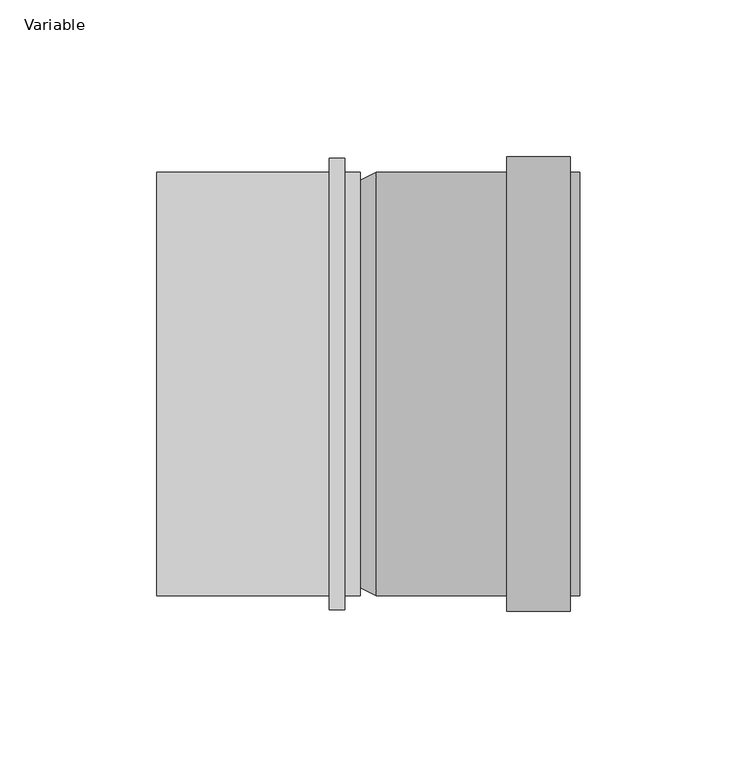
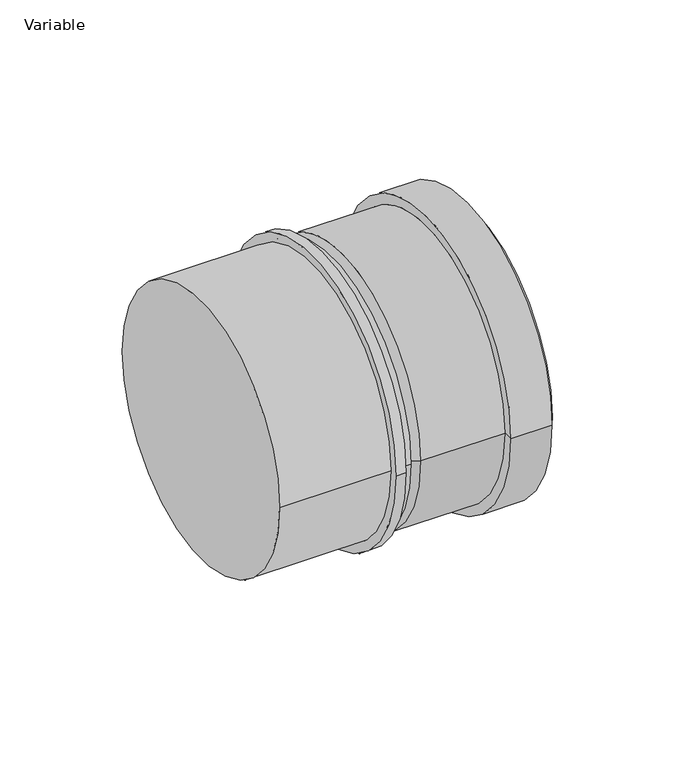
"""IFC4 building model written with IfcOpenShell, lengths in millimetres: pipe fitting geometry, AliaxisFR_Friaphon_AdaptorPVCFriaphon_FR : Variable."""

from ifc_helpers import new_model, si_unit, point, frame, origin, origin_2d, place, context, project, spatial, polyline, circle_curve, trimmed, segment, composite_curve, outline, extrude, source, transform, mapped, element, save
from ifc_brep_helpers import plane_surface, cylinder_surface, revolved_surface, advanced_brep


def variable_47d3c62a(model_context):
    return source(origin(), model_context, "Body", "SolidModel", [
        advanced_brep(
        [(135.0, -67.5, 0.0), (135.0, 67.5, 0.0), (135.0, 62.5, 0.0), (135.0, -62.5, 0.0), (111.6666667, -72.5, 0.0), (111.6666667, 72.5, 0.0), (132.0, 72.5, 0.0), (132.0, -72.5, 0.0), (111.6666667, -67.5, 0.0), (111.6666667, 67.5, 0.0), (70.0, -67.5, 0.0), (70.0, 67.5, 0.0), (60.0, 62.5, 0.0), (60.0, -62.5, 0.0), (132.0, -67.5, 0.0), (132.0, 67.5, 0.0)],
        [
            (0, 1, circle_curve(frame((135.0, 0.0, 0.0), z_axis=(1.0, 0.0, 0.0), x_axis=(0.0, 1.0, 0.0)), 67.5)),
            (1, 2),
            (2, 3, circle_curve(frame((135.0, 0.0, 0.0), z_axis=(-1.0, 0.0, 0.0), x_axis=(0.0, 1.0, 0.0)), 62.5)),
            (3, 0),
            (1, 0, circle_curve(frame((135.0, 0.0, 0.0), z_axis=(1.0, 0.0, 0.0), x_axis=(0.0, 1.0, 0.0)), 67.5)),
            (3, 2, circle_curve(frame((135.0, 0.0, 0.0), z_axis=(-1.0, 0.0, 0.0), x_axis=(0.0, 1.0, 0.0)), 62.5)),
            (4, 5, circle_curve(frame((111.6666667, 0.0, 0.0), z_axis=(1.0, 0.0, 0.0), x_axis=(0.0, 1.0, 0.0)), 72.5)),
            (5, 6),
            (6, 7, circle_curve(frame((132.0, 0.0, 0.0), z_axis=(-1.0, 0.0, 0.0), x_axis=(0.0, 1.0, 0.0)), 72.5)),
            (7, 4),
            (5, 4, circle_curve(frame((111.6666667, 0.0, 0.0), z_axis=(1.0, 0.0, 0.0), x_axis=(0.0, 1.0, 0.0)), 72.5)),
            (7, 6, circle_curve(frame((132.0, 0.0, 0.0), z_axis=(-1.0, 0.0, 0.0), x_axis=(0.0, 1.0, 0.0)), 72.5)),
            (8, 9, circle_curve(frame((111.6666667, 0.0, 0.0), z_axis=(1.0, 0.0, 0.0), x_axis=(0.0, 1.0, 0.0)), 67.5)),
            (9, 5),
            (4, 8),
            (9, 8, circle_curve(frame((111.6666667, 0.0, 0.0), z_axis=(1.0, 0.0, 0.0), x_axis=(0.0, 1.0, 0.0)), 67.5)),
            (10, 11, circle_curve(frame((70.0, 0.0, 0.0), z_axis=(1.0, 0.0, 0.0), x_axis=(0.0, 1.0, 0.0)), 67.5)),
            (11, 9),
            (8, 10),
            (11, 10, circle_curve(frame((70.0, 0.0, 0.0), z_axis=(1.0, 0.0, 0.0), x_axis=(0.0, 1.0, 0.0)), 67.5)),
            (2, 12),
            (12, 13, circle_curve(frame((60.0, 0.0, 0.0), z_axis=(-1.0, 0.0, 0.0), x_axis=(0.0, 1.0, 0.0)), 62.5)),
            (13, 3),
            (13, 12, circle_curve(frame((60.0, 0.0, 0.0), z_axis=(-1.0, 0.0, 0.0), x_axis=(0.0, 1.0, 0.0)), 62.5)),
            (12, 11),
            (10, 13),
            (14, 15, circle_curve(frame((132.0, 0.0, 0.0), z_axis=(1.0, 0.0, 0.0), x_axis=(0.0, 1.0, 0.0)), 67.5)),
            (15, 1),
            (0, 14),
            (15, 14, circle_curve(frame((132.0, 0.0, 0.0), z_axis=(1.0, 0.0, 0.0), x_axis=(0.0, 1.0, 0.0)), 67.5)),
            (6, 15),
            (14, 7),
        ],
        [
            plane_surface(frame((135.0, 0.0, 0.0), z_axis=(1.0, 0.0, 0.0), x_axis=(0.0, 1.0, 0.0))),
            cylinder_surface(frame((60.0, 0.0, 0.0), z_axis=(-1.0, 0.0, 0.0), x_axis=(0.0, 1.0, 0.0)), 72.5),
            plane_surface(frame((111.6666667, 0.0, 0.0), z_axis=(-1.0, 0.0, 0.0), x_axis=(0.0, 1.0, 0.0))),
            cylinder_surface(frame((60.0, 0.0, 0.0), z_axis=(-1.0, 0.0, 0.0), x_axis=(0.0, 1.0, 0.0)), 67.5),
            revolved_surface(polyline([(60.0, 62.5, 0.0), (135.0, 62.5, 0.0)]), (60.0, 0.0, 0.0), (-1.0, 0.0, 0.0)),
            revolved_surface(polyline([(70.0, 67.5, 0.0), (60.0, 62.5, 0.0)]), (60.0, 0.0, 0.0), (-1.0, 0.0, 0.0)),
            plane_surface(frame((132.0, 0.0, 0.0), z_axis=(1.0, 0.0, 0.0), x_axis=(0.0, 1.0, 0.0))),
        ],
        [
            (0, [[1, 2, 3, 4]]),
            (0, [[5, -4, 6, -2]]),
            (1, [[7, 8, 9, 10]]),
            (1, [[11, -10, 12, -8]]),
            (2, [[13, 14, -7, 15]]),
            (2, [[16, -15, -11, -14]]),
            (3, [[17, 18, -13, 19]]),
            (3, [[20, -19, -16, -18]]),
            (4, [[-3, 21, 22, 23]]),
            (4, [[-6, -23, 24, -21]]),
            (5, [[-22, 25, -17, 26]]),
            (5, [[-24, -26, -20, -25]]),
            (3, [[27, 28, -1, 29]]),
            (3, [[30, -29, -5, -28]]),
            (6, [[-9, 31, -27, 32]]),
            (6, [[-12, -32, -30, -31]]),
        ],
    ),
        extrude(outline(composite_curve([segment(trimmed(circle_curve(origin_2d(), 72.0), [point((-72.0, 0.0))], [point((72.0, 0.0))], False, "CARTESIAN"), True, "CONTINUOUS"), segment(trimmed(circle_curve(origin_2d(), 72.0), [point((72.0, 0.0))], [point((-72.0, 0.0))], False, "CARTESIAN"), True, "CONTINUOUS")], self_intersect=False), holes=[composite_curve([segment(trimmed(circle_curve(origin_2d(), 67.5), [point((-67.5, 0.0))], [point((67.5, 0.0))], True, "CARTESIAN"), True, "CONTINUOUS"), segment(trimmed(circle_curve(origin_2d(), 67.5), [point((67.5, 0.0))], [point((-67.5, 0.0))], True, "CARTESIAN"), True, "CONTINUOUS")], self_intersect=False)]), frame((55.0, 0.0, 0.0), z_axis=(1.0, 0.0, 0.0), x_axis=(0.0, 1.0, 0.0)), (0.0, 0.0, 1.0), 5.0),
        extrude(outline(composite_curve([segment(trimmed(circle_curve(origin_2d(), 67.5), [point((-67.5, 0.0))], [point((67.5, 0.0))], False, "CARTESIAN"), True, "CONTINUOUS"), segment(trimmed(circle_curve(origin_2d(), 67.5), [point((67.5, 0.0))], [point((-67.5, 0.0))], False, "CARTESIAN"), True, "CONTINUOUS")], self_intersect=False)), frame((0.0, 0.0, 0.0), z_axis=(1.0, 0.0, 0.0), x_axis=(0.0, 1.0, 0.0)), (0.0, 0.0, 1.0), 65.0),
    ])


if __name__ == "__main__":
    model = new_model("IFC4")
    model_context = context("Model", 3, world=origin())
    ifc_project = project(units=[si_unit("LENGTHUNIT", "METRE", prefix="MILLI")], contexts=[model_context])
    site = spatial("IfcSite", under=ifc_project)
    building = spatial("IfcBuilding", under=site)
    placement = place(None, origin())
    variable_shape = variable_47d3c62a(model_context)
    element("IfcPipeFitting", 1, ObjectType="AliaxisFR_Friaphon_AdaptorPVCFriaphon_FR : Variable", at=placement, inside=building, context=model_context, shape_type="MappedRepresentation", body=[
        mapped(variable_shape, transform((0.0, 0.0, 0.0), x_axis=(1.0, 0.0, 0.0), y_axis=(0.0, 1.0, 0.0), z_axis=(0.0, 0.0, 1.0))),
    ])
    save(model, "model.ifc")
